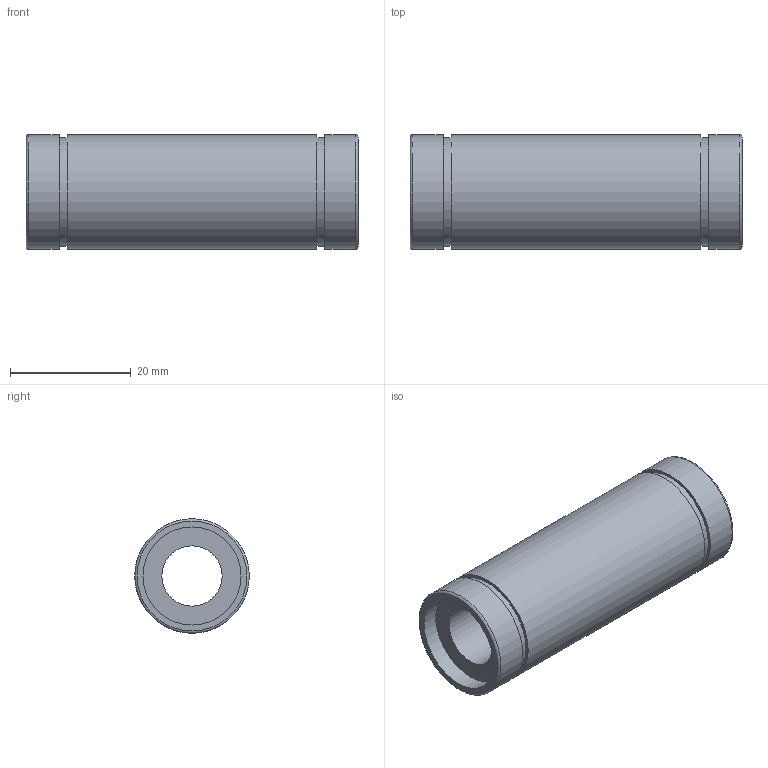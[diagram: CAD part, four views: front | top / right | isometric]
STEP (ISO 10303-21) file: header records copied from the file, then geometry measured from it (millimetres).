
FILE_DESCRIPTION( ( 'Unknown' ), '1' );
FILE_NAME( 'D:/累诀/己绕皋墨飘肺葱胶/11-04-06_档搁累己/01_府聪绢何教/LM L/LM 10L.stp', 'Unknown', ( 'Unknown' ), ( 'Unknown' ), 'PSStep 11.0', 'Unknown', ' ' );
FILE_SCHEMA( ( 'AUTOMOTIVE_DESIGN { 1 0 10303 214 1 1 1 1 }' ) );
Length unit declared in the file: millimetre
Products named in the file (1): 1
Bounding box: 55 x 19 x 19 mm (x, y, z)
Volume: 10486.1 mm3; surface area: 5616.2 mm2
Topology: 1 solids, 1 shells, 18 faces, 31 edges, 21 vertices
Faces by surface type: plane 8, cylinder 8, torus 2
Full cylindrical faces by diameter (mm): 10 x1, 16.25 x2, 18 x2, 19 x3
Entity records: 528 total; most frequent: DIRECTION 74, CARTESIAN_POINT 55, AXIS2_PLACEMENT_3D 37, EDGE_LOOP 36, ORIENTED_EDGE 36, FACE_OUTER_BOUND 28, STYLED_ITEM 18, PRESENTATION_STYLE_ASSIGNMENT 18
